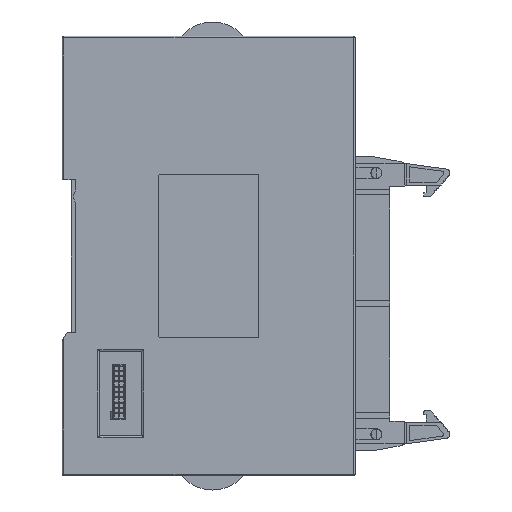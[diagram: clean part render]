
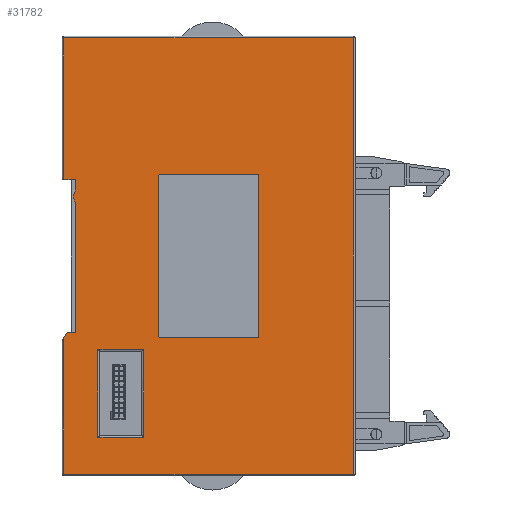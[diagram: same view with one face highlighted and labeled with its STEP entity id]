
A CAD part, left-side view. The second image highlights one B-rep face of the part: STEP entity #31782.
In plain terms, the highlighted planar face has unit normal (-1, 0, 0).
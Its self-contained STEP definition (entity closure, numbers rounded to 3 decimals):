
#31782=ADVANCED_FACE('',(#70751,#70753,#70755),#70757,.T.);
#70751=FACE_BOUND('',#70752,.T.);
#70752=EDGE_LOOP('',(#103561,#103562,#103563,#103564,#103565,#103566,#103567,#103568,
#103569,#103570,#103571));
#70753=FACE_BOUND('',#70754,.T.);
#70754=EDGE_LOOP('',(#103572,#103573,#103574,#103575,#103576,#103577,#103578,#103579));
#70755=FACE_BOUND('',#70756,.T.);
#70756=EDGE_LOOP('',(#103580,#103581,#103582,#103583));
#70757=PLANE('',#70758);
#70758=AXIS2_PLACEMENT_3D('',#70759,#70760,#70761);
#70759=CARTESIAN_POINT('',(16.872,-44.348,-13.125));
#70760=DIRECTION('',(-1.,0.,0.));
#70761=DIRECTION('',(0.,0.,1.));
#103561=ORIENTED_EDGE('',*,*,#122427,.F.);
#103562=ORIENTED_EDGE('',*,*,#122428,.F.);
#103563=ORIENTED_EDGE('',*,*,#122429,.T.);
#103564=ORIENTED_EDGE('',*,*,#122430,.T.);
#103565=ORIENTED_EDGE('',*,*,#122431,.T.);
#103566=ORIENTED_EDGE('',*,*,#122432,.T.);
#103567=ORIENTED_EDGE('',*,*,#122433,.T.);
#103568=ORIENTED_EDGE('',*,*,#122434,.F.);
#103569=ORIENTED_EDGE('',*,*,#122435,.F.);
#103570=ORIENTED_EDGE('',*,*,#122436,.F.);
#103571=ORIENTED_EDGE('',*,*,#122103,.F.);
#103572=ORIENTED_EDGE('',*,*,#122437,.F.);
#103573=ORIENTED_EDGE('',*,*,#122438,.F.);
#103574=ORIENTED_EDGE('',*,*,#122439,.F.);
#103575=ORIENTED_EDGE('',*,*,#122440,.F.);
#103576=ORIENTED_EDGE('',*,*,#122441,.F.);
#103577=ORIENTED_EDGE('',*,*,#122442,.F.);
#103578=ORIENTED_EDGE('',*,*,#122443,.F.);
#103579=ORIENTED_EDGE('',*,*,#122444,.F.);
#103580=ORIENTED_EDGE('',*,*,#122445,.F.);
#103581=ORIENTED_EDGE('',*,*,#122446,.F.);
#103582=ORIENTED_EDGE('',*,*,#122447,.F.);
#103583=ORIENTED_EDGE('',*,*,#122448,.F.);
#122103=EDGE_CURVE('',#165237,#165235,#165239,.T.);
#122427=EDGE_CURVE('',#165870,#165237,#165871,.T.);
#122428=EDGE_CURVE('',#165872,#165870,#165873,.T.);
#122429=EDGE_CURVE('',#165872,#165874,#165875,.T.);
#122430=EDGE_CURVE('',#165874,#165876,#165877,.T.);
#122431=EDGE_CURVE('',#165876,#165878,#165879,.T.);
#122432=EDGE_CURVE('',#165878,#165880,#165881,.T.);
#122433=EDGE_CURVE('',#165880,#165882,#165883,.T.);
#122434=EDGE_CURVE('',#165884,#165882,#165885,.T.);
#122435=EDGE_CURVE('',#165886,#165884,#165887,.T.);
#122436=EDGE_CURVE('',#165235,#165886,#165888,.T.);
#122437=EDGE_CURVE('',#165889,#165890,#165891,.T.);
#122438=EDGE_CURVE('',#165892,#165889,#165893,.T.);
#122439=EDGE_CURVE('',#165894,#165892,#165895,.T.);
#122440=EDGE_CURVE('',#165896,#165894,#165897,.T.);
#122441=EDGE_CURVE('',#165898,#165896,#165899,.T.);
#122442=EDGE_CURVE('',#165900,#165898,#165901,.T.);
#122443=EDGE_CURVE('',#165902,#165900,#165903,.T.);
#122444=EDGE_CURVE('',#165890,#165902,#165904,.T.);
#122445=EDGE_CURVE('',#165905,#165906,#165907,.T.);
#122446=EDGE_CURVE('',#165908,#165905,#165909,.T.);
#122447=EDGE_CURVE('',#165910,#165908,#165911,.T.);
#122448=EDGE_CURVE('',#165906,#165910,#165912,.T.);
#165235=VERTEX_POINT('',#232532);
#165237=VERTEX_POINT('',#232537);
#165239=LINE('',#232542,#232543);
#165870=VERTEX_POINT('',#234118);
#165871=LINE('',#234119,#234120);
#165872=VERTEX_POINT('',#234122);
#165873=LINE('',#234123,#234124);
#165874=VERTEX_POINT('',#234126);
#165875=LINE('',#234127,#234128);
#165876=VERTEX_POINT('',#234130);
#165877=LINE('',#234131,#234132);
#165878=VERTEX_POINT('',#234134);
#165879=CIRCLE('',#234135,2.);
#165880=VERTEX_POINT('',#234139);
#165881=LINE('',#234140,#234141);
#165882=VERTEX_POINT('',#234143);
#165883=LINE('',#234144,#234145);
#165884=VERTEX_POINT('',#234147);
#165885=LINE('',#234148,#234149);
#165886=VERTEX_POINT('',#234151);
#165887=LINE('',#234152,#234153);
#165888=LINE('',#234155,#234156);
#165889=VERTEX_POINT('',#234158);
#165890=VERTEX_POINT('',#234159);
#165891=CIRCLE('',#234160,0.5);
#165892=VERTEX_POINT('',#234164);
#165893=LINE('',#234165,#234166);
#165894=VERTEX_POINT('',#234168);
#165895=CIRCLE('',#234169,0.5);
#165896=VERTEX_POINT('',#234173);
#165897=LINE('',#234174,#234175);
#165898=VERTEX_POINT('',#234177);
#165899=CIRCLE('',#234178,0.5);
#165900=VERTEX_POINT('',#234182);
#165901=LINE('',#234183,#234184);
#165902=VERTEX_POINT('',#234186);
#165903=CIRCLE('',#234187,0.5);
#165904=LINE('',#234191,#234192);
#165905=VERTEX_POINT('',#234194);
#165906=VERTEX_POINT('',#234195);
#165907=LINE('',#234196,#234197);
#165908=VERTEX_POINT('',#234199);
#165909=LINE('',#234200,#234201);
#165910=VERTEX_POINT('',#234203);
#165911=LINE('',#234204,#234205);
#165912=LINE('',#234207,#234208);
#232532=CARTESIAN_POINT('',(16.872,-120.48,-2.693));
#232537=CARTESIAN_POINT('',(16.872,-120.48,101.507));
#232542=CARTESIAN_POINT('',(16.872,-120.48,101.507));
#232543=VECTOR('',#232544,1.);
#232544=DIRECTION('',(0.,0.,-1.));
#234118=CARTESIAN_POINT('',(16.872,-51.28,101.507));
#234119=CARTESIAN_POINT('',(16.872,-51.28,101.507));
#234120=VECTOR('',#234121,1.);
#234121=DIRECTION('',(0.,-1.,0.));
#234122=CARTESIAN_POINT('',(16.872,-51.28,67.607));
#234123=CARTESIAN_POINT('',(16.872,-51.28,67.607));
#234124=VECTOR('',#234125,1.);
#234125=DIRECTION('',(0.,0.,1.));
#234126=CARTESIAN_POINT('',(16.872,-54.08,67.607));
#234127=CARTESIAN_POINT('',(16.872,-51.28,67.607));
#234128=VECTOR('',#234129,1.);
#234129=DIRECTION('',(0.,-1.,0.));
#234130=CARTESIAN_POINT('',(16.872,-54.08,64.93));
#234131=CARTESIAN_POINT('',(16.872,-54.08,67.607));
#234132=VECTOR('',#234133,1.);
#234133=DIRECTION('',(0.,0.,-1.));
#234134=CARTESIAN_POINT('',(16.872,-54.08,62.284));
#234135=AXIS2_PLACEMENT_3D('',#234136,#234137,#234138);
#234136=CARTESIAN_POINT('',(16.872,-55.58,63.607));
#234137=DIRECTION('',(-1.,0.,0.));
#234138=DIRECTION('',(0.,0.75,0.661));
#234139=CARTESIAN_POINT('',(16.872,-54.08,31.207));
#234140=CARTESIAN_POINT('',(16.872,-54.08,62.284));
#234141=VECTOR('',#234142,1.);
#234142=DIRECTION('',(0.,0.,-1.));
#234143=CARTESIAN_POINT('',(16.872,-52.08,31.207));
#234144=CARTESIAN_POINT('',(16.872,-54.08,31.207));
#234145=VECTOR('',#234146,1.);
#234146=DIRECTION('',(0.,1.,0.));
#234147=CARTESIAN_POINT('',(16.872,-51.28,29.874));
#234148=CARTESIAN_POINT('',(16.872,-51.28,29.874));
#234149=VECTOR('',#234150,1.);
#234150=DIRECTION('',(0.,-0.515,0.857));
#234151=CARTESIAN_POINT('',(16.872,-51.28,-2.693));
#234152=CARTESIAN_POINT('',(16.872,-51.28,-2.693));
#234153=VECTOR('',#234154,1.);
#234154=DIRECTION('',(0.,0.,1.));
#234155=CARTESIAN_POINT('',(16.872,-120.48,-2.693));
#234156=VECTOR('',#234157,1.);
#234157=DIRECTION('',(0.,1.,0.));
#234158=CARTESIAN_POINT('',(16.872,-73.88,30.407));
#234159=CARTESIAN_POINT('',(16.872,-74.38,29.907));
#234160=AXIS2_PLACEMENT_3D('',#234161,#234162,#234163);
#234161=CARTESIAN_POINT('',(16.872,-74.38,30.407));
#234162=DIRECTION('',(-1.,0.,0.));
#234163=DIRECTION('',(0.,1.,0.));
#234164=CARTESIAN_POINT('',(16.872,-73.88,68.407));
#234165=CARTESIAN_POINT('',(16.872,-73.88,68.407));
#234166=VECTOR('',#234167,1.);
#234167=DIRECTION('',(0.,0.,-1.));
#234168=CARTESIAN_POINT('',(16.872,-74.38,68.907));
#234169=AXIS2_PLACEMENT_3D('',#234170,#234171,#234172);
#234170=CARTESIAN_POINT('',(16.872,-74.38,68.407));
#234171=DIRECTION('',(-1.,0.,0.));
#234172=DIRECTION('',(0.,0.,1.));
#234173=CARTESIAN_POINT('',(16.872,-97.38,68.907));
#234174=CARTESIAN_POINT('',(16.872,-97.38,68.907));
#234175=VECTOR('',#234176,1.);
#234176=DIRECTION('',(0.,1.,0.));
#234177=CARTESIAN_POINT('',(16.872,-97.88,68.407));
#234178=AXIS2_PLACEMENT_3D('',#234179,#234180,#234181);
#234179=CARTESIAN_POINT('',(16.872,-97.38,68.407));
#234180=DIRECTION('',(-1.,0.,0.));
#234181=DIRECTION('',(0.,-1.,0.));
#234182=CARTESIAN_POINT('',(16.872,-97.88,30.407));
#234183=CARTESIAN_POINT('',(16.872,-97.88,30.407));
#234184=VECTOR('',#234185,1.);
#234185=DIRECTION('',(0.,0.,1.));
#234186=CARTESIAN_POINT('',(16.872,-97.38,29.907));
#234187=AXIS2_PLACEMENT_3D('',#234188,#234189,#234190);
#234188=CARTESIAN_POINT('',(16.872,-97.38,30.407));
#234189=DIRECTION('',(-1.,0.,0.));
#234190=DIRECTION('',(0.,0.,-1.));
#234191=CARTESIAN_POINT('',(16.872,-74.38,29.907));
#234192=VECTOR('',#234193,1.);
#234193=DIRECTION('',(0.,-1.,0.));
#234194=CARTESIAN_POINT('',(16.872,-59.45,6.057));
#234195=CARTESIAN_POINT('',(16.872,-70.34,6.057));
#234196=CARTESIAN_POINT('',(16.872,-59.45,6.057));
#234197=VECTOR('',#234198,1.);
#234198=DIRECTION('',(0.,-1.,0.));
#234199=CARTESIAN_POINT('',(16.872,-59.45,27.057));
#234200=CARTESIAN_POINT('',(16.872,-59.45,27.057));
#234201=VECTOR('',#234202,1.);
#234202=DIRECTION('',(0.,0.,-1.));
#234203=CARTESIAN_POINT('',(16.872,-70.34,27.057));
#234204=CARTESIAN_POINT('',(16.872,-70.34,27.057));
#234205=VECTOR('',#234206,1.);
#234206=DIRECTION('',(0.,1.,0.));
#234207=CARTESIAN_POINT('',(16.872,-70.34,6.057));
#234208=VECTOR('',#234209,1.);
#234209=DIRECTION('',(0.,0.,1.));
